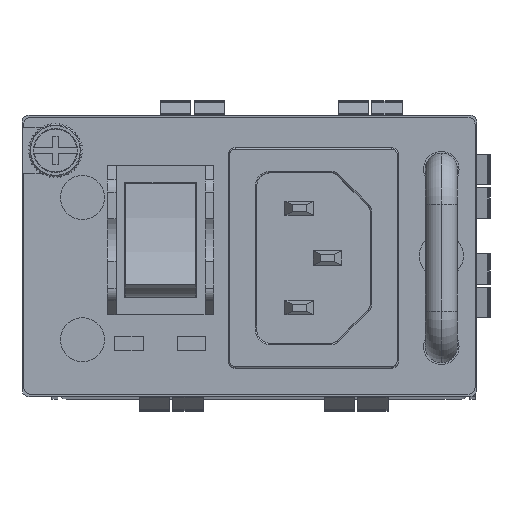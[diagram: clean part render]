
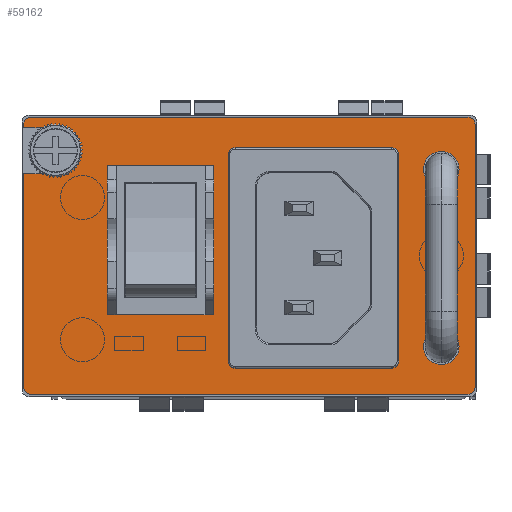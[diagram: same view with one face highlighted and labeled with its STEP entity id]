
A CAD part, top view. The second image highlights one B-rep face of the part: STEP entity #59162.
In plain terms, the highlighted planar face has unit normal (0, 0, 1).
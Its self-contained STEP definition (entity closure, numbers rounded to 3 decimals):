
#58753=CARTESIAN_POINT('',(27.,12.2,2.25));
#58754=DIRECTION('',(0.,0.,1.));
#58755=DIRECTION('',(-1.,0.,0.));
#58756=AXIS2_PLACEMENT_3D('',#58753,#58754,#58755);
#58758=CARTESIAN_POINT('',(27.,12.2,2.25));
#58759=DIRECTION('',(0.,0.,1.));
#58760=DIRECTION('',(1.,0.,0.));
#58761=AXIS2_PLACEMENT_3D('',#58758,#58759,#58760);
#58763=CARTESIAN_POINT('',(27.,-12.8,2.25));
#58764=DIRECTION('',(0.,0.,1.));
#58765=DIRECTION('',(-1.,0.,0.));
#58766=AXIS2_PLACEMENT_3D('',#58763,#58764,#58765);
#58768=CARTESIAN_POINT('',(27.,-12.8,2.25));
#58769=DIRECTION('',(0.,0.,1.));
#58770=DIRECTION('',(1.,0.,0.));
#58771=AXIS2_PLACEMENT_3D('',#58768,#58769,#58770);
#58773=DIRECTION('',(-1.,0.,0.));
#58774=VECTOR('',#58773,20.9);
#58775=CARTESIAN_POINT('',(19.45,13.15,2.25));
#58776=LINE('',#58775,#58774);
#58777=DIRECTION('',(0.,-1.,0.));
#58778=VECTOR('',#58777,26.9);
#58779=CARTESIAN_POINT('',(-1.45,13.15,2.25));
#58780=LINE('',#58779,#58778);
#58781=DIRECTION('',(1.,0.,0.));
#58782=VECTOR('',#58781,20.9);
#58783=CARTESIAN_POINT('',(-1.45,-13.75,2.25));
#58784=LINE('',#58783,#58782);
#58785=DIRECTION('',(0.,1.,0.));
#58786=VECTOR('',#58785,26.9);
#58787=CARTESIAN_POINT('',(19.45,-13.75,2.25));
#58788=LINE('',#58787,#58786);
#58789=DIRECTION('',(-1.,0.,0.));
#58790=VECTOR('',#58789,13.5);
#58791=CARTESIAN_POINT('',(-5.75,12.15,2.25));
#58792=LINE('',#58791,#58790);
#58793=DIRECTION('',(0.,-1.,0.));
#58794=VECTOR('',#58793,19.9);
#58795=CARTESIAN_POINT('',(-19.25,12.15,2.25));
#58796=LINE('',#58795,#58794);
#58797=DIRECTION('',(1.,0.,0.));
#58798=VECTOR('',#58797,13.5);
#58799=CARTESIAN_POINT('',(-19.25,-7.75,2.25));
#58800=LINE('',#58799,#58798);
#58801=DIRECTION('',(0.,1.,0.));
#58802=VECTOR('',#58801,19.9);
#58803=CARTESIAN_POINT('',(-5.75,-7.75,2.25));
#58804=LINE('',#58803,#58802);
#58805=CARTESIAN_POINT('',(-30.75,18.5,2.25));
#58806=DIRECTION('',(0.,0.,1.));
#58807=DIRECTION('',(0.,1.,0.));
#58808=AXIS2_PLACEMENT_3D('',#58805,#58806,#58807);
#58810=DIRECTION('',(-1.,0.,0.));
#58811=VECTOR('',#58810,61.5);
#58812=CARTESIAN_POINT('',(30.75,19.5,2.25));
#58813=LINE('',#58812,#58811);
#58814=CARTESIAN_POINT('',(30.75,18.5,2.25));
#58815=DIRECTION('',(0.,0.,1.));
#58816=DIRECTION('',(1.,0.,0.));
#58817=AXIS2_PLACEMENT_3D('',#58814,#58815,#58816);
#58819=DIRECTION('',(0.,1.,0.));
#58820=VECTOR('',#58819,37.);
#58821=CARTESIAN_POINT('',(31.75,-18.5,2.25));
#58822=LINE('',#58821,#58820);
#58823=CARTESIAN_POINT('',(30.75,-18.5,2.25));
#58824=DIRECTION('',(0.,0.,1.));
#58825=DIRECTION('',(0.,-1.,0.));
#58826=AXIS2_PLACEMENT_3D('',#58823,#58824,#58825);
#58828=DIRECTION('',(1.,0.,0.));
#58829=VECTOR('',#58828,61.5);
#58830=CARTESIAN_POINT('',(-30.75,-19.5,2.25));
#58831=LINE('',#58830,#58829);
#58832=CARTESIAN_POINT('',(-30.75,-18.5,2.25));
#58833=DIRECTION('',(0.,0.,1.));
#58834=DIRECTION('',(-1.,0.,0.));
#58835=AXIS2_PLACEMENT_3D('',#58832,#58833,#58834);
#58837=DIRECTION('',(0.,-1.,0.));
#58838=VECTOR('',#58837,30.05);
#58839=CARTESIAN_POINT('',(-31.75,11.55,2.25));
#58840=LINE('',#58839,#58838);
#58841=DIRECTION('',(1.,0.,0.));
#58842=VECTOR('',#58841,4.45);
#58843=CARTESIAN_POINT('',(-31.75,11.55,2.25));
#58844=LINE('',#58843,#58842);
#58845=CARTESIAN_POINT('',(-27.3,14.8,2.25));
#58846=DIRECTION('',(0.,0.,1.));
#58847=DIRECTION('',(0.,-1.,0.));
#58848=AXIS2_PLACEMENT_3D('',#58845,#58846,#58847);
#58850=DIRECTION('',(-1.,0.,0.));
#58851=VECTOR('',#58850,4.45);
#58852=CARTESIAN_POINT('',(-27.3,18.05,2.25));
#58853=LINE('',#58852,#58851);
#58854=DIRECTION('',(0.,-1.,0.));
#58855=VECTOR('',#58854,0.45);
#58856=CARTESIAN_POINT('',(-31.75,18.5,2.25));
#58857=LINE('',#58856,#58855);
#59003=CARTESIAN_POINT('',(-30.75,19.5,2.25));
#59004=CARTESIAN_POINT('',(-31.75,18.5,2.25));
#59005=VERTEX_POINT('',#59003);
#59006=VERTEX_POINT('',#59004);
#59011=CARTESIAN_POINT('',(24.5,12.2,2.25));
#59012=CARTESIAN_POINT('',(29.5,12.2,2.25));
#59013=VERTEX_POINT('',#59011);
#59014=VERTEX_POINT('',#59012);
#59015=CARTESIAN_POINT('',(24.5,-12.8,2.25));
#59016=CARTESIAN_POINT('',(29.5,-12.8,2.25));
#59017=VERTEX_POINT('',#59015);
#59018=VERTEX_POINT('',#59016);
#59019=CARTESIAN_POINT('',(-1.45,13.15,2.25));
#59020=CARTESIAN_POINT('',(19.45,13.15,2.25));
#59021=VERTEX_POINT('',#59019);
#59022=VERTEX_POINT('',#59020);
#59023=CARTESIAN_POINT('',(19.45,-13.75,2.25));
#59024=VERTEX_POINT('',#59023);
#59025=CARTESIAN_POINT('',(-1.45,-13.75,2.25));
#59026=VERTEX_POINT('',#59025);
#59027=CARTESIAN_POINT('',(-19.25,12.15,2.25));
#59028=CARTESIAN_POINT('',(-5.75,12.15,2.25));
#59029=VERTEX_POINT('',#59027);
#59030=VERTEX_POINT('',#59028);
#59031=CARTESIAN_POINT('',(-5.75,-7.75,2.25));
#59032=VERTEX_POINT('',#59031);
#59033=CARTESIAN_POINT('',(-19.25,-7.75,2.25));
#59034=VERTEX_POINT('',#59033);
#59059=CARTESIAN_POINT('',(-30.75,-19.5,2.25));
#59060=CARTESIAN_POINT('',(30.75,-19.5,2.25));
#59061=VERTEX_POINT('',#59059);
#59062=VERTEX_POINT('',#59060);
#59063=CARTESIAN_POINT('',(30.75,19.5,2.25));
#59064=VERTEX_POINT('',#59063);
#59071=CARTESIAN_POINT('',(31.75,18.5,2.25));
#59072=VERTEX_POINT('',#59071);
#59075=CARTESIAN_POINT('',(31.75,-18.5,2.25));
#59076=VERTEX_POINT('',#59075);
#59079=CARTESIAN_POINT('',(-27.3,11.55,2.25));
#59080=CARTESIAN_POINT('',(-27.3,18.05,2.25));
#59081=VERTEX_POINT('',#59079);
#59082=VERTEX_POINT('',#59080);
#59083=CARTESIAN_POINT('',(-31.75,11.55,2.25));
#59084=VERTEX_POINT('',#59083);
#59085=CARTESIAN_POINT('',(-31.75,18.05,2.25));
#59086=VERTEX_POINT('',#59085);
#59095=CARTESIAN_POINT('',(-31.75,-18.5,2.25));
#59096=VERTEX_POINT('',#59095);
#59099=CARTESIAN_POINT('',(0.,0.,2.25));
#59100=DIRECTION('',(0.,0.,1.));
#59101=DIRECTION('',(1.,0.,0.));
#59102=AXIS2_PLACEMENT_3D('',#59099,#59100,#59101);
#59103=PLANE('',#59102);
#59105=ORIENTED_EDGE('',*,*,#59104,.F.);
#59107=ORIENTED_EDGE('',*,*,#59106,.F.);
#59109=ORIENTED_EDGE('',*,*,#59108,.F.);
#59111=ORIENTED_EDGE('',*,*,#59110,.F.);
#59113=ORIENTED_EDGE('',*,*,#59112,.F.);
#59115=ORIENTED_EDGE('',*,*,#59114,.F.);
#59117=ORIENTED_EDGE('',*,*,#59116,.F.);
#59119=ORIENTED_EDGE('',*,*,#59118,.F.);
#59121=ORIENTED_EDGE('',*,*,#59120,.T.);
#59123=ORIENTED_EDGE('',*,*,#59122,.T.);
#59125=ORIENTED_EDGE('',*,*,#59124,.T.);
#59127=ORIENTED_EDGE('',*,*,#59126,.F.);
#59128=EDGE_LOOP('',(#59105,#59107,#59109,#59111,#59113,#59115,#59117,#59119,
#59121,#59123,#59125,#59127));
#59129=FACE_OUTER_BOUND('',#59128,.F.);
#59131=ORIENTED_EDGE('',*,*,#59130,.T.);
#59133=ORIENTED_EDGE('',*,*,#59132,.T.);
#59134=EDGE_LOOP('',(#59131,#59133));
#59135=FACE_BOUND('',#59134,.F.);
#59137=ORIENTED_EDGE('',*,*,#59136,.T.);
#59139=ORIENTED_EDGE('',*,*,#59138,.T.);
#59141=ORIENTED_EDGE('',*,*,#59140,.T.);
#59143=ORIENTED_EDGE('',*,*,#59142,.T.);
#59144=EDGE_LOOP('',(#59137,#59139,#59141,#59143));
#59145=FACE_BOUND('',#59144,.F.);
#59147=ORIENTED_EDGE('',*,*,#59146,.T.);
#59149=ORIENTED_EDGE('',*,*,#59148,.T.);
#59151=ORIENTED_EDGE('',*,*,#59150,.T.);
#59153=ORIENTED_EDGE('',*,*,#59152,.T.);
#59154=EDGE_LOOP('',(#59147,#59149,#59151,#59153));
#59155=FACE_BOUND('',#59154,.F.);
#59157=ORIENTED_EDGE('',*,*,#59156,.T.);
#59159=ORIENTED_EDGE('',*,*,#59158,.T.);
#59160=EDGE_LOOP('',(#59157,#59159));
#59161=FACE_BOUND('',#59160,.F.);
#59162=ADVANCED_FACE('',(#59129,#59135,#59145,#59155,#59161),#59103,.T.);
#58757=CIRCLE('',#58756,2.5);
#58762=CIRCLE('',#58761,2.5);
#58767=CIRCLE('',#58766,2.5);
#58772=CIRCLE('',#58771,2.5);
#58809=CIRCLE('',#58808,1.);
#58818=CIRCLE('',#58817,1.);
#58827=CIRCLE('',#58826,1.);
#58836=CIRCLE('',#58835,1.);
#58849=CIRCLE('',#58848,3.25);
#59104=EDGE_CURVE('',#59005,#59006,#58809,.T.);
#59106=EDGE_CURVE('',#59064,#59005,#58813,.T.);
#59108=EDGE_CURVE('',#59072,#59064,#58818,.T.);
#59110=EDGE_CURVE('',#59076,#59072,#58822,.T.);
#59112=EDGE_CURVE('',#59062,#59076,#58827,.T.);
#59114=EDGE_CURVE('',#59061,#59062,#58831,.T.);
#59116=EDGE_CURVE('',#59096,#59061,#58836,.T.);
#59118=EDGE_CURVE('',#59084,#59096,#58840,.T.);
#59120=EDGE_CURVE('',#59084,#59081,#58844,.T.);
#59122=EDGE_CURVE('',#59081,#59082,#58849,.T.);
#59124=EDGE_CURVE('',#59082,#59086,#58853,.T.);
#59126=EDGE_CURVE('',#59006,#59086,#58857,.T.);
#59130=EDGE_CURVE('',#59017,#59018,#58767,.T.);
#59132=EDGE_CURVE('',#59018,#59017,#58772,.T.);
#59136=EDGE_CURVE('',#59022,#59021,#58776,.T.);
#59138=EDGE_CURVE('',#59021,#59026,#58780,.T.);
#59140=EDGE_CURVE('',#59026,#59024,#58784,.T.);
#59142=EDGE_CURVE('',#59024,#59022,#58788,.T.);
#59146=EDGE_CURVE('',#59030,#59029,#58792,.T.);
#59148=EDGE_CURVE('',#59029,#59034,#58796,.T.);
#59150=EDGE_CURVE('',#59034,#59032,#58800,.T.);
#59152=EDGE_CURVE('',#59032,#59030,#58804,.T.);
#59156=EDGE_CURVE('',#59013,#59014,#58757,.T.);
#59158=EDGE_CURVE('',#59014,#59013,#58762,.T.);
